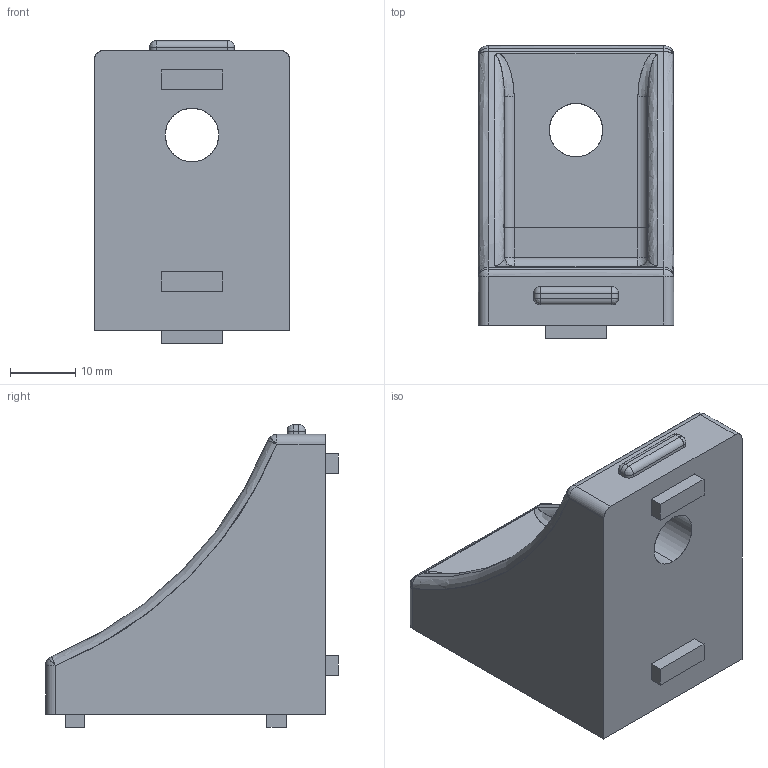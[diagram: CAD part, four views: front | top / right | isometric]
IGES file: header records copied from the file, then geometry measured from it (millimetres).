
Start section: SolidWorks IGES file using analytic representation for surfaces
Global section: file name: C:\Documents and Settings\SugataY\デスクトップ\SFJ-013.IGS; native system: SolidWorks 2006 by SolidWorks Corporation; preprocessor: SolidWorks 2006 by SolidWorks Corporation; author: SugataY; date: 100607.134951; units: millimetre
Bounding box: 30 x 45 x 46.5 mm (x, y, z)
Surface area: 8308.3 mm2 (no closed solid volume)
Topology: 0 solids, 0 shells, 88 faces, 756 edges, 744 vertices
Faces by surface type: bspline 48, revolution 40
